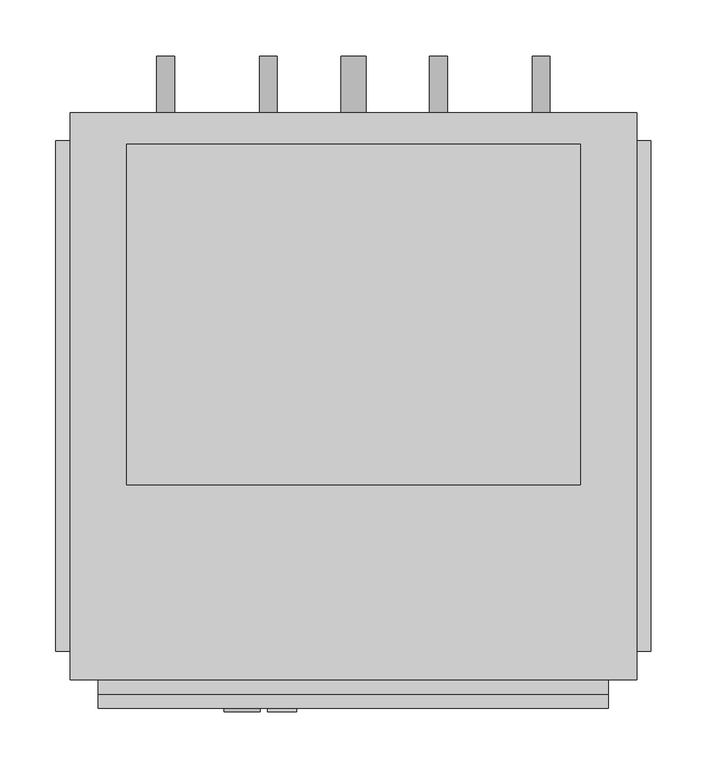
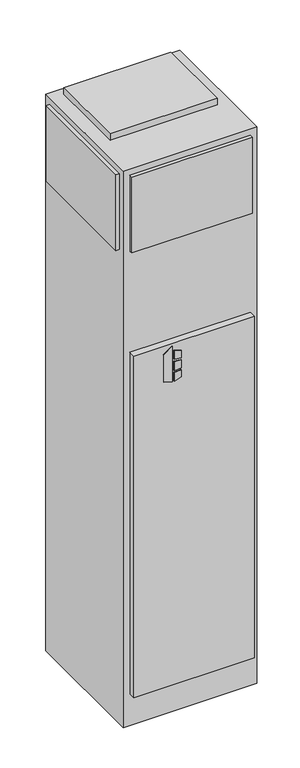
"""IFC4 building model written with IfcOpenShell, lengths in millimetres: proxy geometry, Concealed_Universal_Modular_Fan_Coil_Unit_-_MUY_-_IEC_-_4-Pipe_-_NoRisers_2022 : Size 06 - 277v/60Hz/1Ph - 4/1 Coil."""

from ifc_helpers import new_model, si_unit, point, frame, frame_2d, origin, origin_with_axes, place, context, project, spatial, polyline, circle_curve, trimmed, segment, composite_curve, outline, extrude, source, transform, mapped, element, save


def mechanical_equipment_88213263(model_context):
    return source(origin(), model_context, "Body", "SweptSolid", [
        extrude(outline(polyline([(1356.1480703, 290.5868862), (1346.2, 322.7602728), (1488.3709244, 322.7602728), (1465.3489183, 290.5868862), (1356.1480703, 290.5868862)])), frame((0.0, -292.1, 0.0), z_axis=(0.0, 1.0, 0.0), x_axis=(0.0, 0.0, 1.0)), (0.0, 0.0, 1.0), 3.175),
        extrude(outline(polyline([(1435.1473557, 329.5186058), (1431.9449632, 355.6), (1461.1738042, 355.6), (1469.2382193, 329.5186058), (1435.1473557, 329.5186058)])), frame((0.0, -292.1, 0.0), z_axis=(0.0, 1.0, 0.0), x_axis=(0.0, 0.0, 1.0)), (0.0, 0.0, 1.0), 3.175),
        extrude(outline(polyline([(1383.2838288, 355.6), (1379.6183279, 329.5186058), (1346.2, 329.5186058), (1354.8342372, 355.6), (1383.2838288, 355.6)])), frame((0.0, -292.1, 0.0), z_axis=(0.0, 1.0, 0.0), x_axis=(0.0, 0.0, 1.0)), (0.0, 0.0, 1.0), 3.175),
        extrude(outline(polyline([(1422.5989903, 355.6), (1424.8808166, 329.5186058), (1388.9432681, 329.5186058), (1391.6845331, 355.6), (1422.5989903, 355.6)])), frame((0.0, -292.1, 0.0), z_axis=(0.0, 1.0, 0.0), x_axis=(0.0, 0.0, 1.0)), (0.0, 0.0, 1.0), 3.175),
        extrude(outline(composite_curve([segment(trimmed(circle_curve(frame_2d((990.6, 574.675)), 7.9375), [point((990.6, 566.7375))], [point((990.6, 582.6125))], False, "CARTESIAN"), True, "CONTINUOUS"), segment(trimmed(circle_curve(frame_2d((990.6, 574.675)), 7.9375), [point((990.6, 582.6125))], [point((990.6, 566.7375))], False, "CARTESIAN"), True, "CONTINUOUS")], self_intersect=False)), frame((0.0, 244.475, 0.0), z_axis=(0.0, 1.0, 0.0), x_axis=(0.0, 0.0, 1.0)), (0.0, 0.0, 1.0), 50.8),
        extrude(outline(composite_curve([segment(trimmed(circle_curve(frame_2d((990.6, 482.6)), 7.9375), [point((990.6, 474.6625))], [point((990.6, 490.5375))], False, "CARTESIAN"), True, "CONTINUOUS"), segment(trimmed(circle_curve(frame_2d((990.6, 482.6)), 7.9375), [point((990.6, 490.5375))], [point((990.6, 474.6625))], False, "CARTESIAN"), True, "CONTINUOUS")], self_intersect=False)), frame((0.0, 244.475, 0.0), z_axis=(0.0, 1.0, 0.0), x_axis=(0.0, 0.0, 1.0)), (0.0, 0.0, 1.0), 50.8),
        extrude(outline(composite_curve([segment(trimmed(circle_curve(frame_2d((990.6, 330.2)), 7.9375), [point((990.6, 322.2625))], [point((990.6, 338.1375))], False, "CARTESIAN"), True, "CONTINUOUS"), segment(trimmed(circle_curve(frame_2d((990.6, 330.2)), 7.9375), [point((990.6, 338.1375))], [point((990.6, 322.2625))], False, "CARTESIAN"), True, "CONTINUOUS")], self_intersect=False)), frame((0.0, 244.475, 0.0), z_axis=(0.0, 1.0, 0.0), x_axis=(0.0, 0.0, 1.0)), (0.0, 0.0, 1.0), 50.8),
        extrude(outline(composite_curve([segment(trimmed(circle_curve(frame_2d((990.6, 238.125)), 7.9375), [point((990.6, 230.1875))], [point((990.6, 246.0625))], False, "CARTESIAN"), True, "CONTINUOUS"), segment(trimmed(circle_curve(frame_2d((990.6, 238.125)), 7.9375), [point((990.6, 246.0625))], [point((990.6, 230.1875))], False, "CARTESIAN"), True, "CONTINUOUS")], self_intersect=False)), frame((0.0, 244.475, 0.0), z_axis=(0.0, 1.0, 0.0), x_axis=(0.0, 0.0, 1.0)), (0.0, 0.0, 1.0), 50.8),
        extrude(outline(composite_curve([segment(trimmed(circle_curve(frame_2d((76.2, 406.4)), 11.1125), [point((76.2, 395.2875))], [point((76.2, 417.5125))], False, "CARTESIAN"), True, "CONTINUOUS"), segment(trimmed(circle_curve(frame_2d((76.2, 406.4)), 11.1125), [point((76.2, 417.5125))], [point((76.2, 395.2875))], False, "CARTESIAN"), True, "CONTINUOUS")], self_intersect=False)), frame((0.0, 244.475, 0.0), z_axis=(0.0, 1.0, 0.0), x_axis=(0.0, 0.0, 1.0)), (0.0, 0.0, 1.0), 50.8),
        extrude(outline(polyline([(609.6, 215.9), (609.6, -88.9), (203.2, -88.9), (203.2, 215.9), (609.6, 215.9)])), frame((0.0, 0.0, 2235.2), z_axis=(0.0, 0.0, 1.0), x_axis=(1.0, 0.0, 0.0)), (0.0, 0.0, 1.0), 25.4),
        extrude(outline(polyline([(139.7, -238.125), (139.7, 219.075), (152.4, 219.075), (152.4, -238.125), (139.7, -238.125)])), frame((0.0, 0.0, 1905.0), z_axis=(0.0, 0.0, 1.0), x_axis=(1.0, 0.0, 0.0)), (0.0, 0.0, 1.0), 304.8),
        extrude(outline(polyline([(673.1, 219.075), (673.1, -238.125), (660.4, -238.125), (660.4, 219.075), (673.1, 219.075)])), frame((0.0, 0.0, 1905.0), z_axis=(0.0, 0.0, 1.0), x_axis=(1.0, 0.0, 0.0)), (0.0, 0.0, 1.0), 304.8),
        extrude(outline(polyline([(635.0, -276.225), (177.8, -276.225), (177.8, -263.525), (635.0, -263.525), (635.0, -276.225)])), frame((0.0, 0.0, 1905.0), z_axis=(0.0, 0.0, 1.0), x_axis=(1.0, 0.0, 0.0)), (0.0, 0.0, 1.0), 304.8),
        extrude(outline(polyline([(635.0, -288.925), (177.8, -288.925), (177.8, -263.525), (635.0, -263.525), (635.0, -288.925)])), frame((0.0, 0.0, 127.0), z_axis=(0.0, 0.0, 1.0), x_axis=(1.0, 0.0, 0.0)), (0.0, 0.0, 1.0), 1371.6),
        extrude(outline(polyline([(660.4, 244.475), (660.4, -263.525), (152.4, -263.525), (152.4, 244.475), (660.4, 244.475)])), origin_with_axes(), (0.0, 0.0, 1.0), 2235.2),
    ])


if __name__ == "__main__":
    model = new_model("IFC4")
    model_context = context("Model", 3, world=origin())
    ifc_project = project(units=[si_unit("LENGTHUNIT", "METRE", prefix="MILLI")], contexts=[model_context])
    site = spatial("IfcSite", under=ifc_project)
    building = spatial("IfcBuilding", under=site)
    placement = place(None, origin())
    mechanical_equipment_shape = mechanical_equipment_88213263(model_context)
    element("IfcBuildingElementProxy", 1, Name="Concealed_Universal_Modular_Fan_Coil_Unit_-_MUY_-_IEC_-_4-Pipe_-_NoRisers_2022 : Size 06 - 277v/60Hz/1Ph - 4/1 Coil", ObjectType="Concealed_Universal_Modular_Fan_Coil_Unit_-_MUY_-_IEC_-_4-Pipe_-_NoRisers_2022 : Size 06 - 277v/60Hz/1Ph - 4/1 Coil", at=placement, inside=building, context=model_context, shape_type="MappedRepresentation", body=[
        mapped(mechanical_equipment_shape, transform((0.0, 0.0, 0.0), x_axis=(1.0, 0.0, 0.0), y_axis=(0.0, 1.0, 0.0), z_axis=(0.0, 0.0, 1.0))),
    ])
    save(model, "model.ifc")
